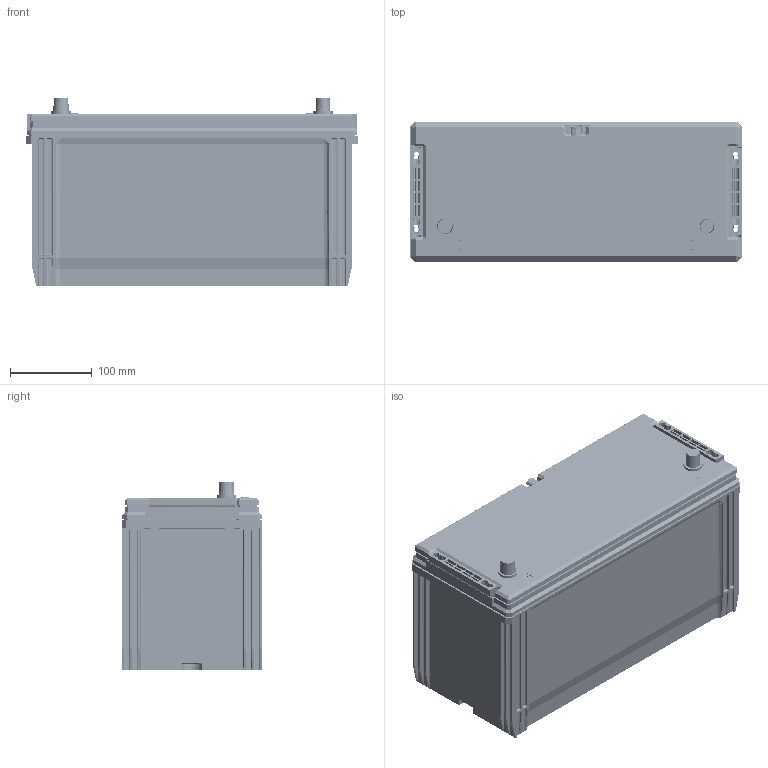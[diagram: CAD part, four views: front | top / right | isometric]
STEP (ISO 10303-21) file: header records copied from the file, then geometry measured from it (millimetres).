
FILE_DESCRIPTION(('CATIA V5 STEP Exchange','CAx-IF Rec.Pracs.--- Composite Materials ---3.4---2017-06-13'),'2;1');
FILE_NAME('G:\Groups\PE\KQ data\Groups\Engineering\Old documents\SX\1-PMV EFB 3D MODEL\Delphi\OneDrive_1_1-6-2023\Delphi N100 SAE.stp','2023-01-17T04:34:53+00:00',('none'),('none'),'CATIA Version 5-6 Release 2021','CATIA V5 STEP AP203 v2','none');
FILE_SCHEMA(('CONFIG_CONTROL_DESIGN'));
Products named in the file (1): bxus07B6kc9c
Bounding box: 406 x 172 x 230.9 mm (x, y, z)
Volume: 1983231 mm3; surface area: 1457884.8 mm2
Topology: 5 solids, 5 shells, 7333 faces, 20640 edges, 13181 vertices
Faces by surface type: plane 3072, cylinder 2379, bspline 634, cone 624, sphere 428, torus 98, extrusion 92, revolution 6
Entity records: 245612 total; most frequent: CARTESIAN_POINT 85303, ORIENTED_EDGE 40522, DIRECTION 22128, EDGE_CURVE 20261, VERTEX_POINT 13178, VECTOR 11125, LINE 11033, EDGE_LOOP 7675
